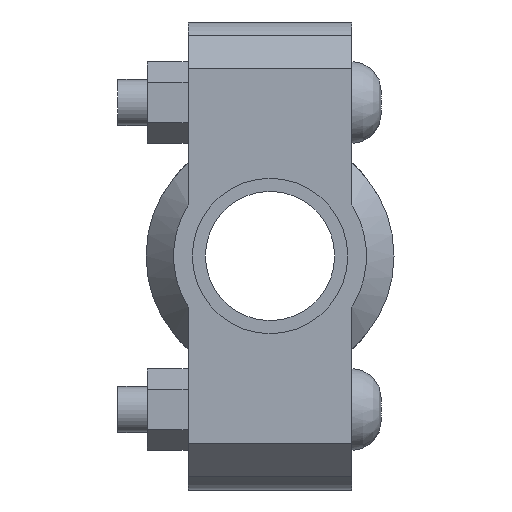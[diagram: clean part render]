
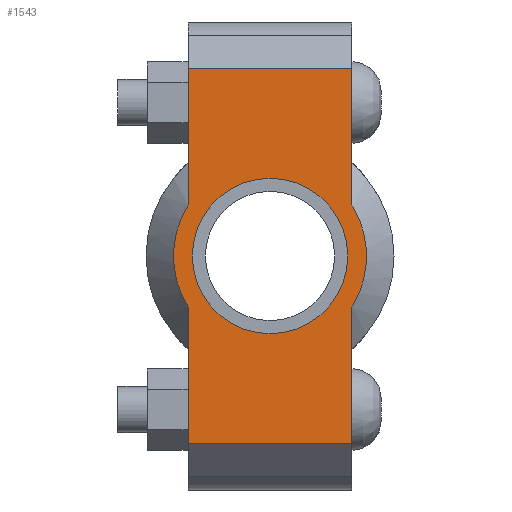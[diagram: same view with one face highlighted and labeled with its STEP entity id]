
A CAD part, left-side view. The second image highlights one B-rep face of the part: STEP entity #1543.
In plain terms, the highlighted planar face has unit normal (-1, 0, 0) as drawn and (0, 0, 1) by its records, which use the part's own axes.
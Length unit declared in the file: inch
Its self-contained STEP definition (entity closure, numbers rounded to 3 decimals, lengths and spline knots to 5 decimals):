
#154=LINE('',#2651,#249);
#169=LINE('',#2710,#264);
#177=LINE('',#2740,#272);
#179=LINE('',#2743,#274);
#180=LINE('',#2748,#275);
#181=LINE('',#2749,#276);
#249=VECTOR('',#2141,0.3937);
#264=VECTOR('',#2176,0.3937);
#272=VECTOR('',#2196,0.3937);
#274=VECTOR('',#2200,0.3937);
#275=VECTOR('',#2205,0.3937);
#276=VECTOR('',#2206,0.3937);
#336=FACE_BOUND('',#495,.T.);
#396=FACE_OUTER_BOUND('',#494,.T.);
#494=EDGE_LOOP('',(#1238,#1239,#1240,#1241,#1242,#1243,#1244,#1245));
#495=EDGE_LOOP('',(#1246));
#600=CIRCLE('',#1806,1.031);
#601=CIRCLE('',#1807,1.031);
#602=CIRCLE('',#1808,0.83);
#709=VERTEX_POINT('',#2648);
#710=VERTEX_POINT('',#2650);
#731=VERTEX_POINT('',#2705);
#732=VERTEX_POINT('',#2709);
#741=VERTEX_POINT('',#2735);
#742=VERTEX_POINT('',#2739);
#743=VERTEX_POINT('',#2745);
#744=VERTEX_POINT('',#2747);
#745=VERTEX_POINT('',#2751);
#879=EDGE_CURVE('',#710,#709,#154,.T.);
#904=EDGE_CURVE('',#732,#731,#169,.T.);
#917=EDGE_CURVE('',#742,#741,#177,.T.);
#919=EDGE_CURVE('',#742,#709,#179,.T.);
#920=EDGE_CURVE('',#741,#743,#600,.T.);
#921=EDGE_CURVE('',#743,#744,#180,.T.);
#922=EDGE_CURVE('',#732,#744,#181,.T.);
#923=EDGE_CURVE('',#731,#710,#601,.T.);
#924=EDGE_CURVE('',#745,#745,#602,.T.);
#1238=ORIENTED_EDGE('',*,*,#919,.F.);
#1239=ORIENTED_EDGE('',*,*,#917,.T.);
#1240=ORIENTED_EDGE('',*,*,#920,.T.);
#1241=ORIENTED_EDGE('',*,*,#921,.T.);
#1242=ORIENTED_EDGE('',*,*,#922,.F.);
#1243=ORIENTED_EDGE('',*,*,#904,.T.);
#1244=ORIENTED_EDGE('',*,*,#923,.T.);
#1245=ORIENTED_EDGE('',*,*,#879,.T.);
#1246=ORIENTED_EDGE('',*,*,#924,.T.);
#1395=PLANE('',#1805);
#1543=ADVANCED_FACE('',(#396,#336),#1395,.T.);
#1805=AXIS2_PLACEMENT_3D('',#2744,#2201,#2202);
#1806=AXIS2_PLACEMENT_3D('',#2746,#2203,#2204);
#1807=AXIS2_PLACEMENT_3D('',#2750,#2207,#2208);
#1808=AXIS2_PLACEMENT_3D('',#2752,#2209,#2210);
#2141=DIRECTION('',(1.,0.,0.));
#2176=DIRECTION('',(1.,0.,0.));
#2196=DIRECTION('',(-1.,0.,0.));
#2200=DIRECTION('',(0.,-1.,0.));
#2201=DIRECTION('center_axis',(0.,0.,1.));
#2202=DIRECTION('ref_axis',(-1.,0.,0.));
#2203=DIRECTION('center_axis',(0.,0.,1.));
#2204=DIRECTION('ref_axis',(1.,0.,0.));
#2205=DIRECTION('',(-1.,0.,0.));
#2206=DIRECTION('',(0.,1.,0.));
#2207=DIRECTION('center_axis',(0.,0.,1.));
#2208=DIRECTION('ref_axis',(1.,0.,0.));
#2209=DIRECTION('center_axis',(0.,0.,-1.));
#2210=DIRECTION('ref_axis',(1.,0.,0.));
#2648=CARTESIAN_POINT('',(2.,-0.875,0.94));
#2650=CARTESIAN_POINT('',(0.54529,-0.875,0.94));
#2651=CARTESIAN_POINT('',(-2.5,-0.875,0.94));
#2705=CARTESIAN_POINT('',(-0.54529,-0.875,0.94));
#2709=CARTESIAN_POINT('',(-2.,-0.875,0.94));
#2710=CARTESIAN_POINT('',(-2.5,-0.875,0.94));
#2735=CARTESIAN_POINT('',(0.54529,0.875,0.94));
#2739=CARTESIAN_POINT('',(2.,0.875,0.94));
#2740=CARTESIAN_POINT('',(2.5,0.875,0.94));
#2743=CARTESIAN_POINT('',(2.,-0.4375,0.94));
#2744=CARTESIAN_POINT('Origin',(0.,0.,
0.94));
#2745=CARTESIAN_POINT('',(-0.54529,0.875,0.94));
#2746=CARTESIAN_POINT('Origin',(0.,0.,0.94));
#2747=CARTESIAN_POINT('',(-2.,0.875,0.94));
#2748=CARTESIAN_POINT('',(2.5,0.875,0.94));
#2749=CARTESIAN_POINT('',(-2.,0.4375,0.94));
#2750=CARTESIAN_POINT('Origin',(0.,0.,0.94));
#2751=CARTESIAN_POINT('',(-0.83,0.,0.94));
#2752=CARTESIAN_POINT('Origin',(0.,0.,0.94));
